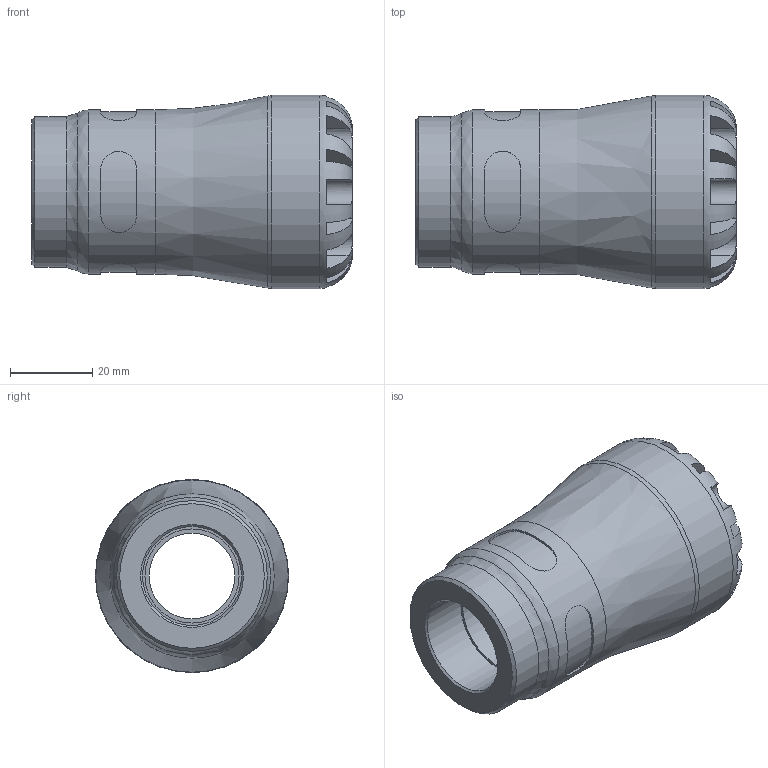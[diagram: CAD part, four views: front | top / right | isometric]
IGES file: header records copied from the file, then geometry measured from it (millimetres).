
Global section: file name: 1073G0025007.ipt; native system: Autodesk Inventor 2015; preprocessor: unknown; author: KIM; date: 20170122.113808; units: millimetre
Bounding box: 78 x 47 x 47 mm (x, y, z)
Volume: 69196.7 mm3; surface area: 19090 mm2
Topology: 1 solids, 1 shells, 104 faces, 270 edges, 174 vertices
Faces by surface type: plane 61, revolution 27, cylinder 15, cone 1
Full cylindrical faces by diameter (mm): 36.66 x1, 39.95 x1, 47 x1
